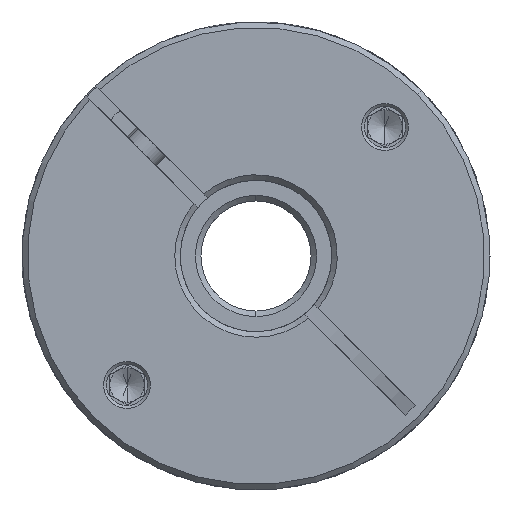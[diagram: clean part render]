
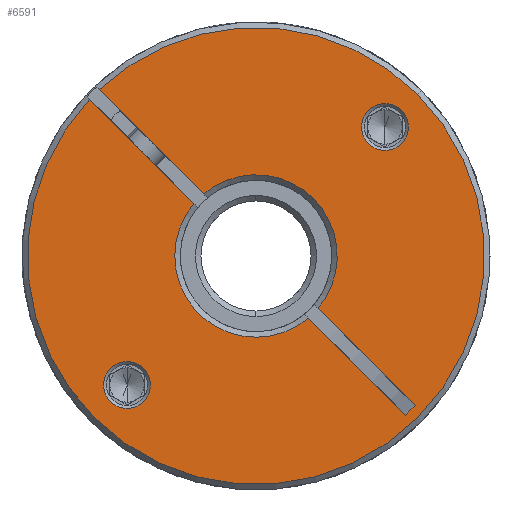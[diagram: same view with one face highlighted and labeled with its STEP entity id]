
A CAD part, front view. The second image highlights one B-rep face of the part: STEP entity #6591.
In plain terms, the highlighted planar face has unit normal (0, -1, 0).
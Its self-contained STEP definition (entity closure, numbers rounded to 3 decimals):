
#40 = CARTESIAN_POINT ( 'NONE',  ( -11.756, -67.045, 75.607 ) ) ;
#92 = EDGE_CURVE ( 'NONE', #1356, #13597, #16222, .T. ) ;
#276 = DIRECTION ( 'NONE',  ( 0., 1., 0. ) ) ;
#304 = VERTEX_POINT ( 'NONE', #16958 ) ;
#739 = CARTESIAN_POINT ( 'NONE',  ( -19.069, -67.045, 51.666 ) ) ;
#755 = CIRCLE ( 'NONE', #5853, 33.2 ) ;
#775 = CARTESIAN_POINT ( 'NONE',  ( -2.735, -67.045, 68. ) ) ;
#804 = VECTOR ( 'NONE', #7131, 1000. ) ;
#1356 = VERTEX_POINT ( 'NONE', #9261 ) ;
#1405 = LINE ( 'NONE', #11467, #6610 ) ;
#1659 = CIRCLE ( 'NONE', #20276, 11.8 ) ;
#1745 = DIRECTION ( 'NONE',  ( 0., 1., 0. ) ) ;
#2113 = VECTOR ( 'NONE', #20411, 1000. ) ;
#2264 = VERTEX_POINT ( 'NONE', #19294 ) ;
#2848 = CARTESIAN_POINT ( 'NONE',  ( -2.028, -67.045, 68.707 ) ) ;
#2950 = DIRECTION ( 'NONE',  ( 0., 1., 0. ) ) ;
#3007 = CARTESIAN_POINT ( 'NONE',  ( -23.878, -67.045, 46.858 ) ) ;
#3052 = VERTEX_POINT ( 'NONE', #3577 ) ;
#3089 = CARTESIAN_POINT ( 'NONE',  ( -2.735, -67.045, 68. ) ) ;
#3250 = DIRECTION ( 'NONE',  ( 0.707, 0., 0.707 ) ) ;
#3450 = CARTESIAN_POINT ( 'NONE',  ( -21.473, -67.045, 49.262 ) ) ;
#3577 = CARTESIAN_POINT ( 'NONE',  ( -25.493, -67.045, 92.172 ) ) ;
#3688 = CARTESIAN_POINT ( 'NONE',  ( -2.735, -67.045, 68. ) ) ;
#3728 = VERTEX_POINT ( 'NONE', #19170 ) ;
#3971 = ORIENTED_EDGE ( 'NONE', *, *, #12775, .T. ) ;
#4001 = EDGE_CURVE ( 'NONE', #19225, #3052, #17356, .T. ) ;
#4203 = LINE ( 'NONE', #10526, #2113 ) ;
#4425 = DIRECTION ( 'NONE',  ( 0., 1., 0. ) ) ;
#4472 = DIRECTION ( 'NONE',  ( 0.707, 0., 0.707 ) ) ;
#4482 = ORIENTED_EDGE ( 'NONE', *, *, #11298, .T. ) ;
#4738 = VERTEX_POINT ( 'NONE', #13200 ) ;
#5071 = EDGE_CURVE ( 'NONE', #3052, #1356, #1405, .T. ) ;
#5074 = DIRECTION ( 'NONE',  ( 0., -1., 0. ) ) ;
#5853 = AXIS2_PLACEMENT_3D ( 'NONE', #10918, #11219, #17642 ) ;
#6347 = CIRCLE ( 'NONE', #16043, 3.4 ) ;
#6591 = ADVANCED_FACE ( 'NONE', ( #10456, #6808, #16483 ), #19074, .T. ) ;
#6610 = VECTOR ( 'NONE', #21353, 1000. ) ;
#6655 = VERTEX_POINT ( 'NONE', #17779 ) ;
#6808 = FACE_BOUND ( 'NONE', #16062, .T. ) ;
#6835 = CARTESIAN_POINT ( 'NONE',  ( -3.442, -67.045, 67.293 ) ) ;
#6897 = CIRCLE ( 'NONE', #9462, 11.8 ) ;
#7131 = DIRECTION ( 'NONE',  ( 0.707, 0., -0.707 ) ) ;
#7418 = EDGE_CURVE ( 'NONE', #13035, #3728, #20049, .T. ) ;
#7440 = ORIENTED_EDGE ( 'NONE', *, *, #13399, .T. ) ;
#7464 = DIRECTION ( 'NONE',  ( 0.707, 0., 0.707 ) ) ;
#7605 = DIRECTION ( 'NONE',  ( 0., 1., 0. ) ) ;
#7699 = CARTESIAN_POINT ( 'NONE',  ( 20.402, -67.045, 46.277 ) ) ;
#7702 = CARTESIAN_POINT ( 'NONE',  ( -21.473, -67.045, 49.262 ) ) ;
#7851 = CARTESIAN_POINT ( 'NONE',  ( -2.735, -67.045, 68. ) ) ;
#8051 = DIRECTION ( 'NONE',  ( 0., -1., 0. ) ) ;
#8065 = CIRCLE ( 'NONE', #20630, 3.4 ) ;
#8088 = CARTESIAN_POINT ( 'NONE',  ( -26.211, -67.045, 44.524 ) ) ;
#8110 = CARTESIAN_POINT ( 'NONE',  ( 5.609, -67.045, 76.344 ) ) ;
#8228 = ORIENTED_EDGE ( 'NONE', *, *, #11992, .T. ) ;
#8308 = ORIENTED_EDGE ( 'NONE', *, *, #16332, .T. ) ;
#8437 = AXIS2_PLACEMENT_3D ( 'NONE', #17305, #20458, #8847 ) ;
#8446 = EDGE_CURVE ( 'NONE', #4738, #6655, #14038, .T. ) ;
#8471 = AXIS2_PLACEMENT_3D ( 'NONE', #7851, #2950, #21207 ) ;
#8583 = DIRECTION ( 'NONE',  ( 0.707, 0., 0.707 ) ) ;
#8847 = DIRECTION ( 'NONE',  ( 0.707, 0., 0.707 ) ) ;
#9015 = VERTEX_POINT ( 'NONE', #8088 ) ;
#9138 = EDGE_LOOP ( 'NONE', ( #14943, #18301, #7440, #17100, #11153, #16508, #4482, #21462, #18034, #13016, #8308 ) ) ;
#9256 = LINE ( 'NONE', #20735, #15023 ) ;
#9261 = CARTESIAN_POINT ( 'NONE',  ( -10.342, -67.045, 77.021 ) ) ;
#9302 = DIRECTION ( 'NONE',  ( 0.707, 0., 0.707 ) ) ;
#9462 = AXIS2_PLACEMENT_3D ( 'NONE', #15222, #1745, #3250 ) ;
#9635 = VERTEX_POINT ( 'NONE', #3007 ) ;
#9958 = ORIENTED_EDGE ( 'NONE', *, *, #8446, .T. ) ;
#10456 = FACE_BOUND ( 'NONE', #18135, .T. ) ;
#10477 = VERTEX_POINT ( 'NONE', #40 ) ;
#10526 = CARTESIAN_POINT ( 'NONE',  ( 18.988, -67.045, 44.862 ) ) ;
#10720 = EDGE_CURVE ( 'NONE', #9635, #11198, #15544, .T. ) ;
#10856 = CARTESIAN_POINT ( 'NONE',  ( 16.003, -67.045, 86.738 ) ) ;
#10918 = CARTESIAN_POINT ( 'NONE',  ( -2.735, -67.045, 68. ) ) ;
#11012 = EDGE_CURVE ( 'NONE', #2264, #10477, #9256, .T. ) ;
#11153 = ORIENTED_EDGE ( 'NONE', *, *, #5071, .T. ) ;
#11198 = VERTEX_POINT ( 'NONE', #739 ) ;
#11219 = DIRECTION ( 'NONE',  ( 0., -1., 0. ) ) ;
#11298 = EDGE_CURVE ( 'NONE', #13597, #304, #6897, .T. ) ;
#11324 = AXIS2_PLACEMENT_3D ( 'NONE', #3089, #8051, #4472 ) ;
#11467 = CARTESIAN_POINT ( 'NONE',  ( -2.028, -67.045, 68.707 ) ) ;
#11992 = EDGE_CURVE ( 'NONE', #6655, #4738, #6347, .T. ) ;
#12107 = EDGE_CURVE ( 'NONE', #304, #18542, #20387, .T. ) ;
#12389 = DIRECTION ( 'NONE',  ( 0., -1., 0. ) ) ;
#12567 = DIRECTION ( 'NONE',  ( 0.707, 0., 0.707 ) ) ;
#12683 = DIRECTION ( 'NONE',  ( 0.707, 0., -0.707 ) ) ;
#12775 = EDGE_CURVE ( 'NONE', #11198, #9635, #8065, .T. ) ;
#12942 = CARTESIAN_POINT ( 'NONE',  ( -2.735, -67.045, 68. ) ) ;
#13016 = ORIENTED_EDGE ( 'NONE', *, *, #7418, .F. ) ;
#13035 = VERTEX_POINT ( 'NONE', #18729 ) ;
#13200 = CARTESIAN_POINT ( 'NONE',  ( 18.407, -67.045, 89.142 ) ) ;
#13399 = EDGE_CURVE ( 'NONE', #9015, #19225, #755, .T. ) ;
#13597 = VERTEX_POINT ( 'NONE', #8110 ) ;
#14038 = CIRCLE ( 'NONE', #8437, 3.4 ) ;
#14164 = VECTOR ( 'NONE', #12683, 1000. ) ;
#14547 = EDGE_CURVE ( 'NONE', #2264, #9015, #17861, .T. ) ;
#14943 = ORIENTED_EDGE ( 'NONE', *, *, #11012, .F. ) ;
#15023 = VECTOR ( 'NONE', #19205, 1000. ) ;
#15131 = DIRECTION ( 'NONE',  ( 0.707, 0., 0.707 ) ) ;
#15222 = CARTESIAN_POINT ( 'NONE',  ( -2.735, -67.045, 68. ) ) ;
#15544 = CIRCLE ( 'NONE', #18774, 3.4 ) ;
#16043 = AXIS2_PLACEMENT_3D ( 'NONE', #10856, #7605, #7464 ) ;
#16062 = EDGE_LOOP ( 'NONE', ( #3971, #20767 ) ) ;
#16222 = CIRCLE ( 'NONE', #8471, 11.8 ) ;
#16332 = EDGE_CURVE ( 'NONE', #13035, #10477, #1659, .T. ) ;
#16483 = FACE_OUTER_BOUND ( 'NONE', #9138, .T. ) ;
#16508 = ORIENTED_EDGE ( 'NONE', *, *, #92, .T. ) ;
#16875 = AXIS2_PLACEMENT_3D ( 'NONE', #3688, #5074, #8583 ) ;
#16958 = CARTESIAN_POINT ( 'NONE',  ( 6.286, -67.045, 60.393 ) ) ;
#17063 = CARTESIAN_POINT ( 'NONE',  ( 20.741, -67.045, 91.476 ) ) ;
#17100 = ORIENTED_EDGE ( 'NONE', *, *, #4001, .T. ) ;
#17305 = CARTESIAN_POINT ( 'NONE',  ( 16.003, -67.045, 86.738 ) ) ;
#17356 = CIRCLE ( 'NONE', #16875, 33.2 ) ;
#17642 = DIRECTION ( 'NONE',  ( 0.707, 0., 0.707 ) ) ;
#17779 = CARTESIAN_POINT ( 'NONE',  ( 13.599, -67.045, 84.334 ) ) ;
#17861 = CIRCLE ( 'NONE', #11324, 33.2 ) ;
#18034 = ORIENTED_EDGE ( 'NONE', *, *, #19892, .T. ) ;
#18135 = EDGE_LOOP ( 'NONE', ( #9958, #8228 ) ) ;
#18301 = ORIENTED_EDGE ( 'NONE', *, *, #14547, .T. ) ;
#18542 = VERTEX_POINT ( 'NONE', #7699 ) ;
#18729 = CARTESIAN_POINT ( 'NONE',  ( 4.872, -67.045, 58.979 ) ) ;
#18774 = AXIS2_PLACEMENT_3D ( 'NONE', #3450, #276, #15131 ) ;
#19074 = PLANE ( 'NONE',  #21492 ) ;
#19170 = CARTESIAN_POINT ( 'NONE',  ( 18.988, -67.045, 44.862 ) ) ;
#19205 = DIRECTION ( 'NONE',  ( 0.707, 0., -0.707 ) ) ;
#19225 = VERTEX_POINT ( 'NONE', #17063 ) ;
#19294 = CARTESIAN_POINT ( 'NONE',  ( -26.908, -67.045, 90.758 ) ) ;
#19624 = DIRECTION ( 'NONE',  ( 0., 1., 0. ) ) ;
#19892 = EDGE_CURVE ( 'NONE', #18542, #3728, #4203, .T. ) ;
#20049 = LINE ( 'NONE', #6835, #804 ) ;
#20276 = AXIS2_PLACEMENT_3D ( 'NONE', #12942, #19624, #12567 ) ;
#20387 = LINE ( 'NONE', #2848, #14164 ) ;
#20411 = DIRECTION ( 'NONE',  ( -0.707, 0., -0.707 ) ) ;
#20458 = DIRECTION ( 'NONE',  ( 0., 1., 0. ) ) ;
#20630 = AXIS2_PLACEMENT_3D ( 'NONE', #7702, #4425, #9302 ) ;
#20735 = CARTESIAN_POINT ( 'NONE',  ( -3.442, -67.045, 67.293 ) ) ;
#20742 = DIRECTION ( 'NONE',  ( 0.707, 0., 0.707 ) ) ;
#20767 = ORIENTED_EDGE ( 'NONE', *, *, #10720, .T. ) ;
#21207 = DIRECTION ( 'NONE',  ( 0.707, 0., 0.707 ) ) ;
#21353 = DIRECTION ( 'NONE',  ( 0.707, 0., -0.707 ) ) ;
#21462 = ORIENTED_EDGE ( 'NONE', *, *, #12107, .T. ) ;
#21492 = AXIS2_PLACEMENT_3D ( 'NONE', #775, #12389, #20742 ) ;
